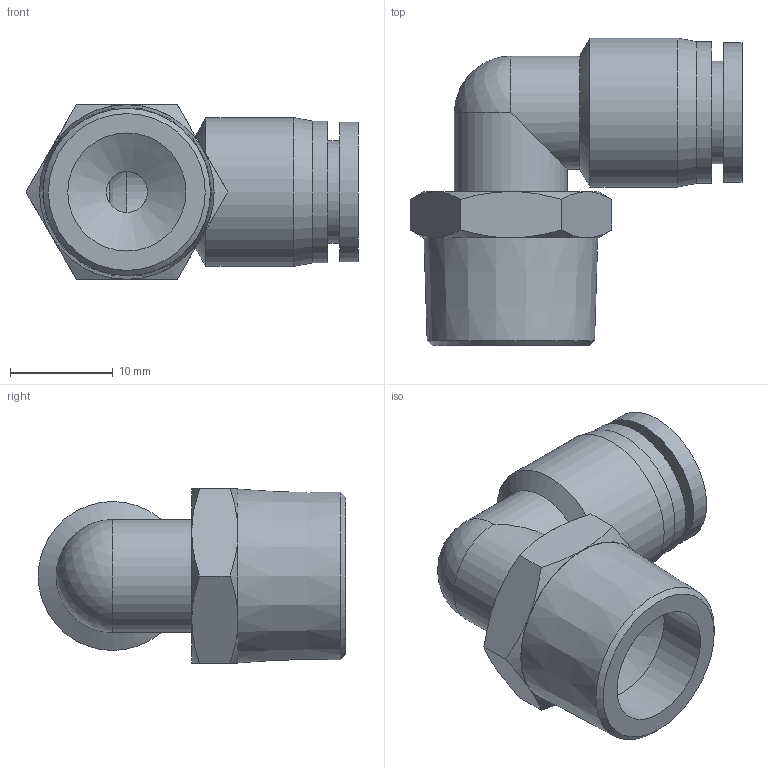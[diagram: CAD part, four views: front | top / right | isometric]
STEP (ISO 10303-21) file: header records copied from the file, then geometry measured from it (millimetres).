
FILE_DESCRIPTION((''),'2;1');
FILE_NAME('S:\UTecnico\ArchivioUT\Speciali Clienti\Speciali KONFIT\Plastica\RP\RP 72K\RP72K3808.stp','2012-05-21T08:54:49',('UT5'),(''),'Autodesk Inventor 2012','Autodesk Inventor 2012','');
FILE_SCHEMA(('AUTOMOTIVE_DESIGN { 1 0 10303 214 1 1 1 1 }'));
Length unit declared in the file: millimetre
Products named in the file (1): RP72K3808
Bounding box: 32.31 x 29.95 x 17 mm (x, y, z)
Volume: 5149.1 mm3; surface area: 3542.3 mm2
Topology: 1 solids, 1 shells, 40 faces, 86 edges, 52 vertices
Faces by surface type: cone 18, plane 12, cylinder 9, sphere 1
Full cylindrical faces by diameter (mm): 4 x1, 8 x1, 10 x1, 11 x2, 11.5 x1, 13.6 x1, 13.8 x1, 14.5 x1
Entity records: 1009 total; most frequent: CARTESIAN_POINT 220, DIRECTION 160, ORIENTED_EDGE 134, AXIS2_PLACEMENT_3D 77, EDGE_CURVE 67, EDGE_LOOP 60, VERTEX_POINT 47, FACE_OUTER_BOUND 40
